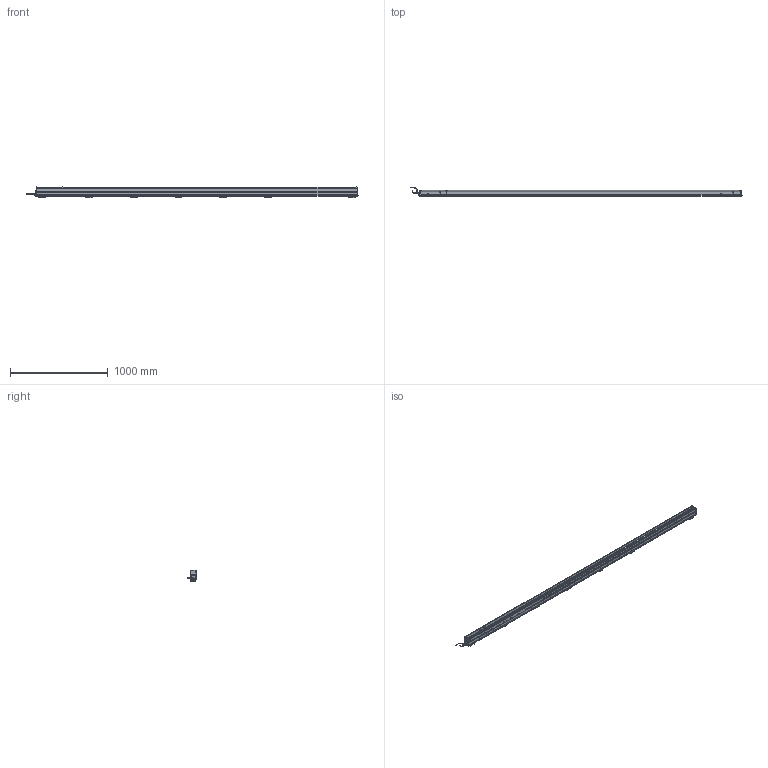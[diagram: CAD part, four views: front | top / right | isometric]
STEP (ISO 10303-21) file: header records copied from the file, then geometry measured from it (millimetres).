
FILE_DESCRIPTION(/* description */ (''),/* implementation_level */ '2;1');
FILE_NAME(/* name */ 'THUNDERION2_3D_3125-3320',/* time_stamp */ '2017-09-28T12:02:30+02:00',/* author */ (''),/* organization */ (''),/* preprocessor_version */ 'ST-DEVELOPER v15.7',/* originating_system */ 'HiCAD 2015 2002.1 Build 408',/* authorisation */ '');
FILE_SCHEMA (('AUTOMOTIVE_DESIGN { 1 0 10303 214 1 1 1 1 }'));
Products named in the file (127): Root; -_ThunderION 3125/3320; -_Side profile; -_Bar; -_Connector straight; EXTRUDED SOLID_0; -_Cord; REVOLVED SOLID_1; REVOLVED SOLID_3; DIN 13-M12x1,5; -_Connector angled; REVOLVED SOLID_2; 4532000100_Mounting bracket bars; -_Side piece; -_Slide piece; -_Bracket small; DIN 13-M3; DIN 76-M3; -_Cable End; light pipe M; light pipe L; -_Cap CE; -_Stud M4; -_Connector M12 male 5 pole_1; -_Contacts; ABSR_1_2_1_1_Inner part; ABSR_1_2_1_2_Inner part; bus; Pg 9; -_Ring tongue terminal; 9230000020_Nut M4; GEWINDE; 9240100020_Spring washer M4; ISO 7051-ST3.5x9.5-C-H_Tapping screws_0; -_Fill; -_Dead end; -_Cap DE; -_Emitter; -_Support Side Profile; -_End Plate
Assembly tree (126 placements, depth 6):
  Root
    -_ThunderION 3125/3320
      -_Side profile
      -_Side profile
      -_Bar
      -_Connector straight
        EXTRUDED SOLID_0
        -_Cord
        REVOLVED SOLID_1
        REVOLVED SOLID_3
          DIN 13-M12x1,5
      -_Connector angled
        REVOLVED SOLID_1
        EXTRUDED SOLID_0
        -_Cord
        REVOLVED SOLID_2
        REVOLVED SOLID_3
          DIN 13-M12x1,5
      4532000100_Mounting bracket bars
        -_Side piece
        -_Side piece
        -_Slide piece
        -_Bracket small
          DIN 13-M3
          DIN 13-M3
          DIN 76-M3
          DIN 76-M3
      4532000100_Mounting bracket bars
        -_Side piece
        -_Side piece
        -_Slide piece
        -_Bracket small
          DIN 13-M3
          DIN 13-M3
          DIN 76-M3
          DIN 76-M3
      4532000100_Mounting bracket bars
        -_Side piece
        -_Side piece
        -_Slide piece
        -_Bracket small
          DIN 13-M3
          DIN 13-M3
          DIN 76-M3
          DIN 76-M3
      4532000100_Mounting bracket bars
        -_Side piece
        -_Side piece
        -_Slide piece
        -_Bracket small
          DIN 13-M3
          DIN 13-M3
          DIN 76-M3
          DIN 76-M3
      4532000100_Mounting bracket bars
        -_Side piece
        -_Side piece
        -_Slide piece
        -_Bracket small
          DIN 13-M3
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Bounding box: 3398.34 x 92.25 x 113 mm (x, y, z)
Volume: 10466345.4 mm3; surface area: 2399165.3 mm2
Topology: 117 solids, 138 shells, 6130 faces, 15659 edges, 9467 vertices
Faces by surface type: plane 2528, cylinder 2462, bspline 344, torus 327, sphere 292, cone 177
Full cylindrical faces by diameter (mm): 0.8 x10, 1 x10, 2.387 x28, 2.5 x1, 2.64 x16, 3 x56, 3.141 x2, 3.5 x8, 4 x26, 4.2 x3, 4.4 x1, 5 x4, 5.5 x35, 7.3 x8, 8 x2, 8.4 x2, 9 x6, 9.6 x1, 10 x2, 10.16 x1, 10.5 x2, 11 x4, 12 x5, 12.8 x1, 13.8 x4, 13.86 x1, 14.5 x3, 15.199 x1, 15.2 x1
Entity records: 361456 total; most frequent: CARTESIAN_POINT 98849, DIRECTION 30329, PRESENTATION_STYLE_ASSIGNMENT 29640, OVER_RIDING_STYLED_ITEM 29527, DRAUGHTING_PRE_DEFINED_CURVE_FONT 29480, CURVE_STYLE 29480, ORIENTED_EDGE 29480, EDGE_CURVE 14740
